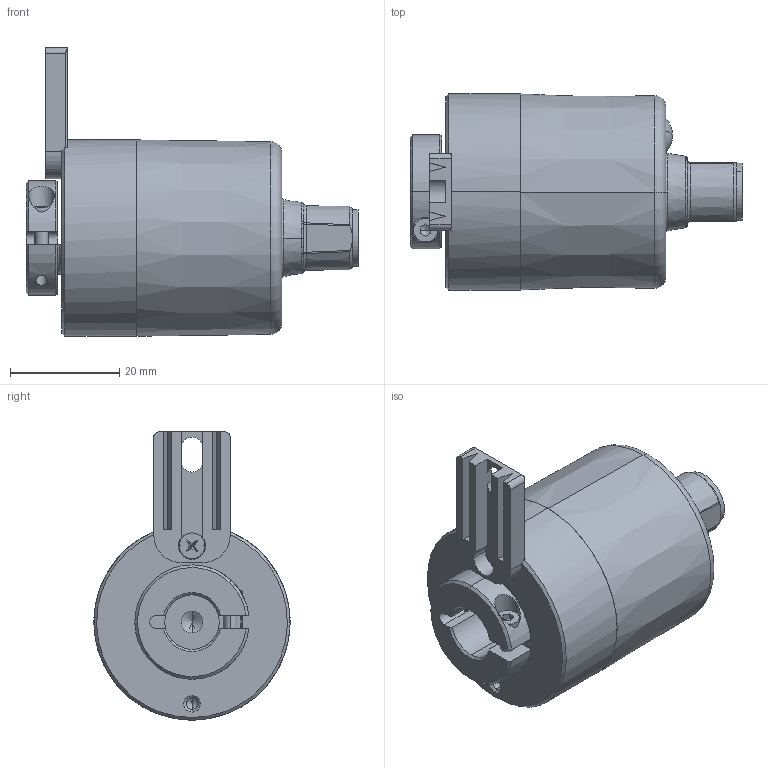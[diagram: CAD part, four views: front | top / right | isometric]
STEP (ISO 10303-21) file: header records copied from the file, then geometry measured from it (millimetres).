
FILE_DESCRIPTION (( 'STEP AP203' ), '1' );
FILE_NAME ('3671.2633.1311.STEP', '2011-10-24T08:49:06', ( 'admin' ), ( 'Fritz Kübler GmbH' ), 'SwSTEP 2.0', 'SolidWorks 2009', '' );
FILE_SCHEMA (( 'CONFIG_CONTROL_DESIGN' ));
Length unit declared in the file: millimetre
Products named in the file (1): 3671.2633.1311
Bounding box: 60.9 x 36 x 52.9 mm (x, y, z)
Volume: 21680 mm3; surface area: 20067.8 mm2
Topology: 9 solids, 9 shells, 721 faces, 1650 edges, 990 vertices
Faces by surface type: cylinder 211, plane 183, cone 131, torus 100, bspline 88, sphere 8
Entity records: 25010 total; most frequent: CARTESIAN_POINT 8907, DIRECTION 3457, ORIENTED_EDGE 3246, EDGE_CURVE 1623, AXIS2_PLACEMENT_3D 1421, VERTEX_POINT 990, EDGE_LOOP 805, CIRCLE 787
